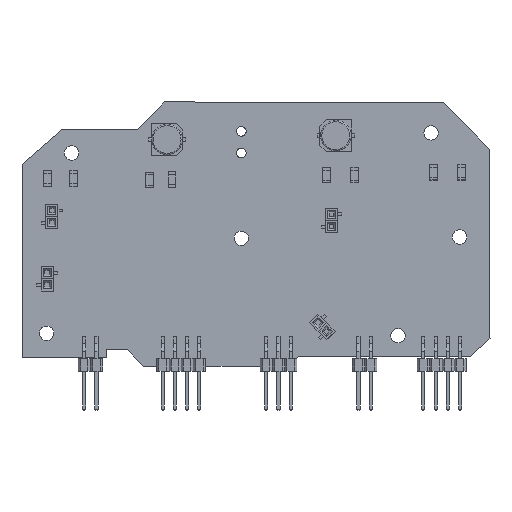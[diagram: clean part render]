
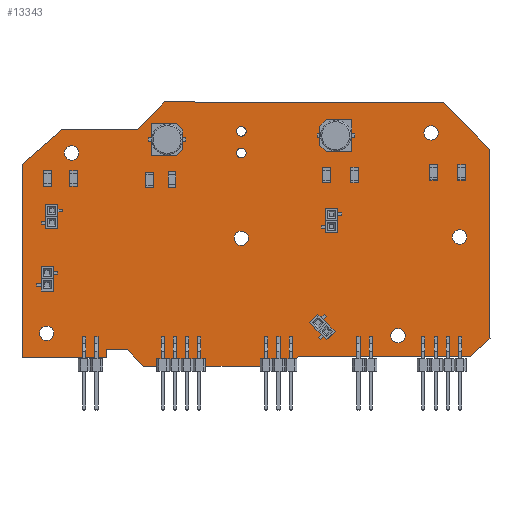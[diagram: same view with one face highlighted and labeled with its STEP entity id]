
A CAD part, top view. The second image highlights one B-rep face of the part: STEP entity #13343.
In plain terms, the highlighted planar face has unit normal (0, 0, 1).
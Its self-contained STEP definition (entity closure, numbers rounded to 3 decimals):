
#13055 = VERTEX_POINT('',#13056);
#13056 = CARTESIAN_POINT('',(247.4,-45.3,1.51));
#13062 = EDGE_CURVE('',#13055,#13063,#13065,.T.);
#13063 = VERTEX_POINT('',#13064);
#13064 = CARTESIAN_POINT('',(257.,-55.,1.51));
#13065 = LINE('',#13066,#13067);
#13066 = CARTESIAN_POINT('',(247.4,-45.3,1.51));
#13067 = VECTOR('',#13068,1.);
#13068 = DIRECTION('',(0.703,-0.711,0.));
#13095 = VERTEX_POINT('',#13096);
#13096 = CARTESIAN_POINT('',(189.5,-45.2,1.51));
#13102 = EDGE_CURVE('',#13095,#13055,#13103,.T.);
#13103 = LINE('',#13104,#13105);
#13104 = CARTESIAN_POINT('',(189.5,-45.2,1.51));
#13105 = VECTOR('',#13106,1.);
#13106 = DIRECTION('',(1.,-0.002,0.));
#13124 = EDGE_CURVE('',#13063,#13125,#13127,.T.);
#13125 = VERTEX_POINT('',#13126);
#13126 = CARTESIAN_POINT('',(257.1,-94.3,1.51));
#13127 = LINE('',#13128,#13129);
#13128 = CARTESIAN_POINT('',(257.,-55.,1.51));
#13129 = VECTOR('',#13130,1.);
#13130 = DIRECTION('',(0.003,-1.,0.));
#13343 = ADVANCED_FACE('',(#13344,#13443,#13454,#13465,#13476,#13487,
    #13498,#13509,#13520),#13531,.T.);
#13344 = FACE_BOUND('',#13345,.T.);
#13345 = EDGE_LOOP('',(#13346,#13347,#13348,#13356,#13364,#13372,#13380,
    #13388,#13396,#13404,#13412,#13420,#13428,#13436,#13442));
#13346 = ORIENTED_EDGE('',*,*,#13062,.F.);
#13347 = ORIENTED_EDGE('',*,*,#13102,.F.);
#13348 = ORIENTED_EDGE('',*,*,#13349,.F.);
#13349 = EDGE_CURVE('',#13350,#13095,#13352,.T.);
#13350 = VERTEX_POINT('',#13351);
#13351 = CARTESIAN_POINT('',(184.,-50.9,1.51));
#13352 = LINE('',#13353,#13354);
#13353 = CARTESIAN_POINT('',(184.,-50.9,1.51));
#13354 = VECTOR('',#13355,1.);
#13355 = DIRECTION('',(0.694,0.72,0.));
#13356 = ORIENTED_EDGE('',*,*,#13357,.F.);
#13357 = EDGE_CURVE('',#13358,#13350,#13360,.T.);
#13358 = VERTEX_POINT('',#13359);
#13359 = CARTESIAN_POINT('',(168.1,-51.,1.51));
#13360 = LINE('',#13361,#13362);
#13361 = CARTESIAN_POINT('',(168.1,-51.,1.51));
#13362 = VECTOR('',#13363,1.);
#13363 = DIRECTION('',(1.,0.006,0.));
#13364 = ORIENTED_EDGE('',*,*,#13365,.F.);
#13365 = EDGE_CURVE('',#13366,#13358,#13368,.T.);
#13366 = VERTEX_POINT('',#13367);
#13367 = CARTESIAN_POINT('',(160.,-58.1,1.51));
#13368 = LINE('',#13369,#13370);
#13369 = CARTESIAN_POINT('',(160.,-58.1,1.51));
#13370 = VECTOR('',#13371,1.);
#13371 = DIRECTION('',(0.752,0.659,0.));
#13372 = ORIENTED_EDGE('',*,*,#13373,.F.);
#13373 = EDGE_CURVE('',#13374,#13366,#13376,.T.);
#13374 = VERTEX_POINT('',#13375);
#13375 = CARTESIAN_POINT('',(160.,-98.3,1.51));
#13376 = LINE('',#13377,#13378);
#13377 = CARTESIAN_POINT('',(160.,-98.3,1.51));
#13378 = VECTOR('',#13379,1.);
#13379 = DIRECTION('',(0.,1.,0.));
#13380 = ORIENTED_EDGE('',*,*,#13381,.F.);
#13381 = EDGE_CURVE('',#13382,#13374,#13384,.T.);
#13382 = VERTEX_POINT('',#13383);
#13383 = CARTESIAN_POINT('',(177.5,-98.3,1.51));
#13384 = LINE('',#13385,#13386);
#13385 = CARTESIAN_POINT('',(177.5,-98.3,1.51));
#13386 = VECTOR('',#13387,1.);
#13387 = DIRECTION('',(-1.,0.,0.));
#13388 = ORIENTED_EDGE('',*,*,#13389,.F.);
#13389 = EDGE_CURVE('',#13390,#13382,#13392,.T.);
#13390 = VERTEX_POINT('',#13391);
#13391 = CARTESIAN_POINT('',(177.5,-96.6,1.51));
#13392 = LINE('',#13393,#13394);
#13393 = CARTESIAN_POINT('',(177.5,-96.6,1.51));
#13394 = VECTOR('',#13395,1.);
#13395 = DIRECTION('',(0.,-1.,0.));
#13396 = ORIENTED_EDGE('',*,*,#13397,.F.);
#13397 = EDGE_CURVE('',#13398,#13390,#13400,.T.);
#13398 = VERTEX_POINT('',#13399);
#13399 = CARTESIAN_POINT('',(181.9,-96.6,1.51));
#13400 = LINE('',#13401,#13402);
#13401 = CARTESIAN_POINT('',(181.9,-96.6,1.51));
#13402 = VECTOR('',#13403,1.);
#13403 = DIRECTION('',(-1.,0.,0.));
#13404 = ORIENTED_EDGE('',*,*,#13405,.F.);
#13405 = EDGE_CURVE('',#13406,#13398,#13408,.T.);
#13406 = VERTEX_POINT('',#13407);
#13407 = CARTESIAN_POINT('',(185.3,-100.1,1.51));
#13408 = LINE('',#13409,#13410);
#13409 = CARTESIAN_POINT('',(185.3,-100.1,1.51));
#13410 = VECTOR('',#13411,1.);
#13411 = DIRECTION('',(-0.697,0.717,0.));
#13412 = ORIENTED_EDGE('',*,*,#13413,.F.);
#13413 = EDGE_CURVE('',#13414,#13406,#13416,.T.);
#13414 = VERTEX_POINT('',#13415);
#13415 = CARTESIAN_POINT('',(215.2,-100.,1.51));
#13416 = LINE('',#13417,#13418);
#13417 = CARTESIAN_POINT('',(215.2,-100.,1.51));
#13418 = VECTOR('',#13419,1.);
#13419 = DIRECTION('',(-1.,-0.003,0.));
#13420 = ORIENTED_EDGE('',*,*,#13421,.F.);
#13421 = EDGE_CURVE('',#13422,#13414,#13424,.T.);
#13422 = VERTEX_POINT('',#13423);
#13423 = CARTESIAN_POINT('',(217.3,-98.,1.51));
#13424 = LINE('',#13425,#13426);
#13425 = CARTESIAN_POINT('',(217.3,-98.,1.51));
#13426 = VECTOR('',#13427,1.);
#13427 = DIRECTION('',(-0.724,-0.69,0.));
#13428 = ORIENTED_EDGE('',*,*,#13429,.F.);
#13429 = EDGE_CURVE('',#13430,#13422,#13432,.T.);
#13430 = VERTEX_POINT('',#13431);
#13431 = CARTESIAN_POINT('',(253.,-98.,1.51));
#13432 = LINE('',#13433,#13434);
#13433 = CARTESIAN_POINT('',(253.,-98.,1.51));
#13434 = VECTOR('',#13435,1.);
#13435 = DIRECTION('',(-1.,0.,0.));
#13436 = ORIENTED_EDGE('',*,*,#13437,.F.);
#13437 = EDGE_CURVE('',#13125,#13430,#13438,.T.);
#13438 = LINE('',#13439,#13440);
#13439 = CARTESIAN_POINT('',(257.1,-94.3,1.51));
#13440 = VECTOR('',#13441,1.);
#13441 = DIRECTION('',(-0.742,-0.67,0.));
#13442 = ORIENTED_EDGE('',*,*,#13124,.F.);
#13443 = FACE_BOUND('',#13444,.T.);
#13444 = EDGE_LOOP('',(#13445));
#13445 = ORIENTED_EDGE('',*,*,#13446,.F.);
#13446 = EDGE_CURVE('',#13447,#13447,#13449,.T.);
#13447 = VERTEX_POINT('',#13448);
#13448 = CARTESIAN_POINT('',(166.6,-93.2,1.51));
#13449 = CIRCLE('',#13450,1.5);
#13450 = AXIS2_PLACEMENT_3D('',#13451,#13452,#13453);
#13451 = CARTESIAN_POINT('',(165.1,-93.2,1.51));
#13452 = DIRECTION('',(0.,0.,1.));
#13453 = DIRECTION('',(1.,0.,-0.));
#13454 = FACE_BOUND('',#13455,.T.);
#13455 = EDGE_LOOP('',(#13456));
#13456 = ORIENTED_EDGE('',*,*,#13457,.F.);
#13457 = EDGE_CURVE('',#13458,#13458,#13460,.T.);
#13458 = VERTEX_POINT('',#13459);
#13459 = CARTESIAN_POINT('',(207.,-73.5,1.51));
#13460 = CIRCLE('',#13461,1.5);
#13461 = AXIS2_PLACEMENT_3D('',#13462,#13463,#13464);
#13462 = CARTESIAN_POINT('',(205.5,-73.5,1.51));
#13463 = DIRECTION('',(0.,0.,1.));
#13464 = DIRECTION('',(1.,0.,-0.));
#13465 = FACE_BOUND('',#13466,.T.);
#13466 = EDGE_LOOP('',(#13467));
#13467 = ORIENTED_EDGE('',*,*,#13468,.F.);
#13468 = EDGE_CURVE('',#13469,#13469,#13471,.T.);
#13469 = VERTEX_POINT('',#13470);
#13470 = CARTESIAN_POINT('',(239.5,-93.7,1.51));
#13471 = CIRCLE('',#13472,1.5);
#13472 = AXIS2_PLACEMENT_3D('',#13473,#13474,#13475);
#13473 = CARTESIAN_POINT('',(238.,-93.7,1.51));
#13474 = DIRECTION('',(0.,0.,1.));
#13475 = DIRECTION('',(1.,0.,-0.));
#13476 = FACE_BOUND('',#13477,.T.);
#13477 = EDGE_LOOP('',(#13478));
#13478 = ORIENTED_EDGE('',*,*,#13479,.F.);
#13479 = EDGE_CURVE('',#13480,#13480,#13482,.T.);
#13480 = VERTEX_POINT('',#13481);
#13481 = CARTESIAN_POINT('',(252.3,-73.2,1.51));
#13482 = CIRCLE('',#13483,1.5);
#13483 = AXIS2_PLACEMENT_3D('',#13484,#13485,#13486);
#13484 = CARTESIAN_POINT('',(250.8,-73.2,1.51));
#13485 = DIRECTION('',(0.,0.,1.));
#13486 = DIRECTION('',(1.,0.,-0.));
#13487 = FACE_BOUND('',#13488,.T.);
#13488 = EDGE_LOOP('',(#13489));
#13489 = ORIENTED_EDGE('',*,*,#13490,.F.);
#13490 = EDGE_CURVE('',#13491,#13491,#13493,.T.);
#13491 = VERTEX_POINT('',#13492);
#13492 = CARTESIAN_POINT('',(171.8,-55.8,1.51));
#13493 = CIRCLE('',#13494,1.5);
#13494 = AXIS2_PLACEMENT_3D('',#13495,#13496,#13497);
#13495 = CARTESIAN_POINT('',(170.3,-55.8,1.51));
#13496 = DIRECTION('',(0.,0.,1.));
#13497 = DIRECTION('',(1.,0.,-0.));
#13498 = FACE_BOUND('',#13499,.T.);
#13499 = EDGE_LOOP('',(#13500));
#13500 = ORIENTED_EDGE('',*,*,#13501,.T.);
#13501 = EDGE_CURVE('',#13502,#13502,#13504,.T.);
#13502 = VERTEX_POINT('',#13503);
#13503 = CARTESIAN_POINT('',(205.5,-56.8,1.51));
#13504 = CIRCLE('',#13505,1.);
#13505 = AXIS2_PLACEMENT_3D('',#13506,#13507,#13508);
#13506 = CARTESIAN_POINT('',(205.5,-55.8,1.51));
#13507 = DIRECTION('',(-0.,0.,-1.));
#13508 = DIRECTION('',(-0.,-1.,0.));
#13509 = FACE_BOUND('',#13510,.T.);
#13510 = EDGE_LOOP('',(#13511));
#13511 = ORIENTED_EDGE('',*,*,#13512,.T.);
#13512 = EDGE_CURVE('',#13513,#13513,#13515,.T.);
#13513 = VERTEX_POINT('',#13514);
#13514 = CARTESIAN_POINT('',(205.5,-52.3,1.51));
#13515 = CIRCLE('',#13516,1.);
#13516 = AXIS2_PLACEMENT_3D('',#13517,#13518,#13519);
#13517 = CARTESIAN_POINT('',(205.5,-51.3,1.51));
#13518 = DIRECTION('',(-0.,0.,-1.));
#13519 = DIRECTION('',(-0.,-1.,0.));
#13520 = FACE_BOUND('',#13521,.T.);
#13521 = EDGE_LOOP('',(#13522));
#13522 = ORIENTED_EDGE('',*,*,#13523,.F.);
#13523 = EDGE_CURVE('',#13524,#13524,#13526,.T.);
#13524 = VERTEX_POINT('',#13525);
#13525 = CARTESIAN_POINT('',(246.4,-51.6,1.51));
#13526 = CIRCLE('',#13527,1.5);
#13527 = AXIS2_PLACEMENT_3D('',#13528,#13529,#13530);
#13528 = CARTESIAN_POINT('',(244.9,-51.6,1.51));
#13529 = DIRECTION('',(0.,0.,1.));
#13530 = DIRECTION('',(1.,0.,-0.));
#13531 = PLANE('',#13532);
#13532 = AXIS2_PLACEMENT_3D('',#13533,#13534,#13535);
#13533 = CARTESIAN_POINT('',(0.,0.,1.51));
#13534 = DIRECTION('',(0.,0.,1.));
#13535 = DIRECTION('',(1.,0.,-0.));
